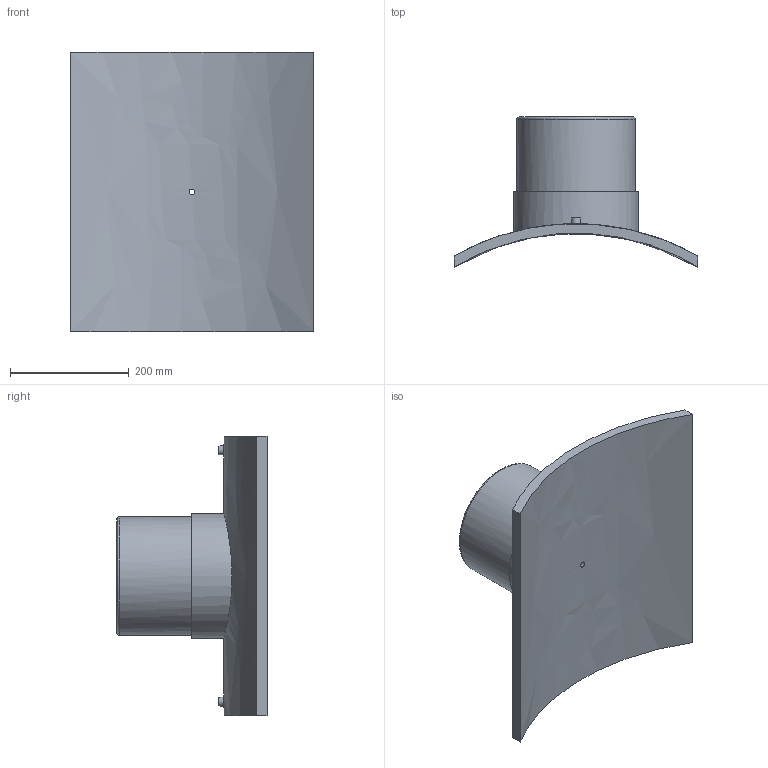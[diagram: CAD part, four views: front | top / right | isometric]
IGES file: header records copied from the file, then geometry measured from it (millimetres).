
Global section: file name: 495803800200T; native system: Autodesk Inventor 2019; preprocessor: unknown; author: KIM; date: 20240404.115712; units: millimetre
Bounding box: 410 x 252.53 x 470 mm (x, y, z)
Volume: 5524768.3 mm3; surface area: 654014.3 mm2
Topology: 1 solids, 1 shells, 29 faces, 60 edges, 43 vertices
Faces by surface type: bspline 29
